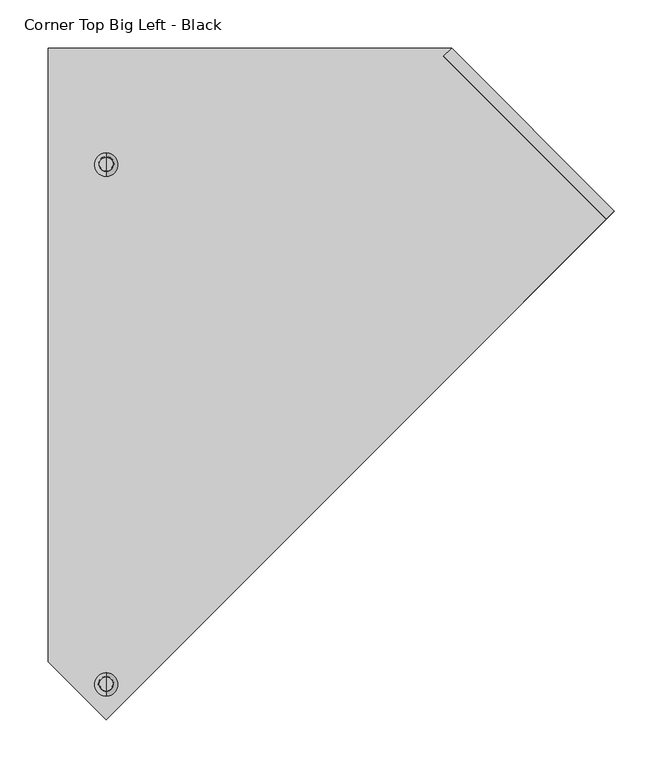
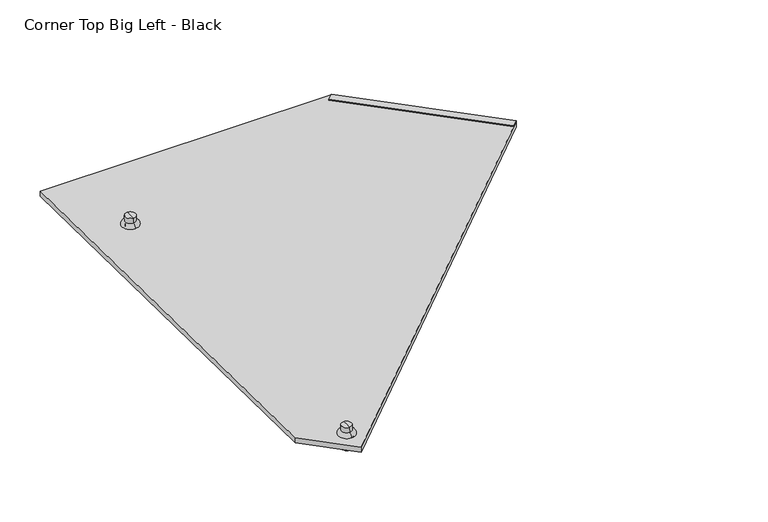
"""IFC4 building model written with IfcOpenShell, lengths in millimetres: proxy geometry, Roofing_Panels_SunStyle_Tile_Corner-Top-Big-Left : Corner Top Big Left - Black."""

import ifcopenshell
import ifcopenshell.guid

model = None  # the IFC model being written
_history = None  # IfcOwnerHistory: only IFC2X3 demands one
_inside = {}  # id of a spatial element -> (the spatial element, [elements in it])
_under = {}  # id of a project, library or spatial element -> (it, [spatial elements below it])
_declared = {}  # id of a project -> (the project, [libraries it declares])
_typed = {}  # id of a type object -> (the type object, [elements of that type])
_made_of = {}  # id of a material, layer set ... -> (it, [elements and type objects made of it])


def new_model(schema):
    """Start an empty IFC model of exactly this schema.

    Asked for "IFC4X3", IfcOpenShell would pick the latest addendum, in which some entities
    have other attributes; the version numbers below select the first issue.
    IFC2X3 requires an IfcOwnerHistory on every rooted entity: one is made here for all.
    """
    global model, _history
    if schema == "IFC4X3":
        model = ifcopenshell.file(schema_version=(4, 3, 0, 0))
    else:
        model = ifcopenshell.file(schema=schema)
    _inside.clear()
    _under.clear()
    _declared.clear()
    _typed.clear()
    _made_of.clear()
    _history = None
    if model.schema == "IFC2X3":
        org = make("IfcOrganization", Name="unknown")
        user = make(
            "IfcPersonAndOrganization",
            ThePerson=make("IfcPerson", FamilyName="unknown"),
            TheOrganization=org,
        )
        app = make(
            "IfcApplication",
            ApplicationDeveloper=org,
            Version="unknown",
            ApplicationFullName="unknown",
            ApplicationIdentifier="unknown",
        )
        _history = make(
            "IfcOwnerHistory",
            OwningUser=user,
            OwningApplication=app,
            ChangeAction="ADDED",
            CreationDate=0,
        )
    return model


def make(cls, **values):
    """One entity of the class cls with the attributes given. An attribute that is None is left unset."""
    return model.create_entity(
        cls, **{name: value for name, value in values.items() if value is not None}
    )


def rooted(cls, **values):
    """An entity with a GlobalId (a new one), such as an element, a storey or a relation."""
    return make(cls, GlobalId=ifcopenshell.guid.new(), OwnerHistory=_history, **values)


def si_unit(unit_type, name, prefix=None):
    """IfcSIUnit, for example si_unit("LENGTHUNIT", "METRE", prefix="MILLI")."""
    return make("IfcSIUnit", UnitType=unit_type, Prefix=prefix, Name=name)


def assignment(units):
    """IfcUnitAssignment: the units of a project."""
    return None if units is None else make("IfcUnitAssignment", Units=units)


def point(xyz):
    """IfcCartesianPoint."""
    return None if xyz is None else make("IfcCartesianPoint", Coordinates=xyz)


def direction(xyz):
    """IfcDirection."""
    return None if xyz is None else make("IfcDirection", DirectionRatios=xyz)


def frame(location, z_axis=None, x_axis=None):
    """IfcAxis2Placement3D, a coordinate frame: its origin and axes. An axis left out is left unset."""
    return make(
        "IfcAxis2Placement3D",
        Location=point(location),
        Axis=direction(z_axis),
        RefDirection=direction(x_axis),
    )


def frame_2d(location, x_axis=None):
    """IfcAxis2Placement2D, a coordinate frame in the plane: its origin and x axis."""
    return make(
        "IfcAxis2Placement2D", Location=point(location), RefDirection=direction(x_axis)
    )


def origin():
    """The frame at (0, 0, 0) with its axes left unset."""
    return frame((0.0, 0.0, 0.0))


def place(relative_to, where):
    """IfcLocalPlacement: puts the frame where relative to a parent placement (None: the world)."""
    return make(
        "IfcLocalPlacement", PlacementRelTo=relative_to, RelativePlacement=where
    )


def context(
    kind, dimensions, precision=None, world=None, true_north=None, identifier=None
):
    """IfcGeometricRepresentationContext, for example the 3D "Model" context."""
    return make(
        "IfcGeometricRepresentationContext",
        ContextIdentifier=identifier,
        ContextType=kind,
        CoordinateSpaceDimension=dimensions,
        Precision=precision,
        WorldCoordinateSystem=world,
        TrueNorth=true_north,
    )


def project(units=None, contexts=None):
    """IfcProject with its units and contexts."""
    return rooted(
        "IfcProject",
        Name="project",
        RepresentationContexts=contexts,
        UnitsInContext=assignment(units),
    )


def spatial(cls, under=None, at=None, **own):
    """A site, building, storey or space (cls), placed at a placement, below another one or the project."""
    s = rooted(cls, ObjectPlacement=at, **own)
    if under is not None:
        _under.setdefault(under.id(), (under, []))[1].append(s)
    return s


def polyline(points):
    """IfcPolyline through the points."""
    return make("IfcPolyline", Points=[point(p) for p in points])


def circle_curve(where, radius):
    """IfcCircle in the frame where."""
    return make("IfcCircle", Position=where, Radius=radius)


def ellipse_curve(where, semi_axis1, semi_axis2):
    """IfcEllipse in the frame where."""
    return make(
        "IfcEllipse", Position=where, SemiAxis1=semi_axis1, SemiAxis2=semi_axis2
    )


def trimmed(basis, trim1, trim2, sense, master):
    """IfcTrimmedCurve: the piece of a basis curve between two trims."""
    return make(
        "IfcTrimmedCurve",
        BasisCurve=basis,
        Trim1=trim1,
        Trim2=trim2,
        SenseAgreement=sense,
        MasterRepresentation=master,
    )


def segment(curve, same_sense, transition):
    """IfcCompositeCurveSegment."""
    return make(
        "IfcCompositeCurveSegment",
        Transition=transition,
        SameSense=same_sense,
        ParentCurve=curve,
    )


def composite_curve(segments, self_intersect=None):
    """IfcCompositeCurve: segments joined end to end."""
    return make("IfcCompositeCurve", Segments=segments, SelfIntersect=self_intersect)


def outline(outer, holes=None, kind="AREA"):
    """IfcArbitraryClosedProfileDef: a profile drawn as a closed curve; with holes, ...WithVoids."""
    if holes is None:
        return make("IfcArbitraryClosedProfileDef", ProfileType=kind, OuterCurve=outer)
    return make(
        "IfcArbitraryProfileDefWithVoids",
        ProfileType=kind,
        OuterCurve=outer,
        InnerCurves=holes,
    )


def extrude(swept, where, along, depth):
    """IfcExtrudedAreaSolid: the profile swept, set in the frame where, extruded along a direction by depth."""
    return make(
        "IfcExtrudedAreaSolid",
        SweptArea=swept,
        Position=where,
        ExtrudedDirection=direction(along),
        Depth=depth,
    )


def shape(context_of_items, identifier, shape_type, items):
    """IfcShapeRepresentation: the items that make up one representation, for example the "Body"."""
    return make(
        "IfcShapeRepresentation",
        ContextOfItems=context_of_items,
        RepresentationIdentifier=identifier,
        RepresentationType=shape_type,
        Items=items,
    )


def source(mapping_origin, context_of_items, identifier, shape_type, items):
    """IfcRepresentationMap: a shape defined once, which mapped items show again and again."""
    return make(
        "IfcRepresentationMap",
        MappingOrigin=mapping_origin,
        MappedRepresentation=shape(context_of_items, identifier, shape_type, items),
    )


def transform(
    local_origin,
    x_axis=None,
    y_axis=None,
    z_axis=None,
    scale=None,
    scale2=None,
    scale3=None,
    uniform=True,
):
    """IfcCartesianTransformationOperator3D, or its non-uniform kind. x_axis, y_axis, z_axis: its Axis1, 2, 3."""
    if uniform:
        return make(
            "IfcCartesianTransformationOperator3D",
            Axis1=direction(x_axis),
            Axis2=direction(y_axis),
            LocalOrigin=point(local_origin),
            Scale=scale,
            Axis3=direction(z_axis),
        )
    return make(
        "IfcCartesianTransformationOperator3DnonUniform",
        Axis1=direction(x_axis),
        Axis2=direction(y_axis),
        LocalOrigin=point(local_origin),
        Scale=scale,
        Axis3=direction(z_axis),
        Scale2=scale2,
        Scale3=scale3,
    )


def mapped(mapping_source, mapping_target):
    """IfcMappedItem: shows the shape of a source again, moved by a transform."""
    return make(
        "IfcMappedItem", MappingSource=mapping_source, MappingTarget=mapping_target
    )


def made_of(thing, what):
    """Note that an element or type object is made of a material, layer set ...; save() writes the relation."""
    if what is not None:
        _made_of.setdefault(what.id(), (what, []))[1].append(thing)
    return thing


def element(
    cls,
    number,
    at=None,
    inside=None,
    cuts=None,
    type_object=None,
    material=None,
    context=None,
    identifier="Body",
    shape_type=None,
    held_by="IfcProductDefinitionShape",
    body=None,
    shapes=None,
    **own,
):
    """One element of the class cls, such as IfcWall. Its Tag is "e" and its number.

    at: its placement. inside: the storey or other place that contains it. cuts: it is an
    opening in that element (IfcRelVoidsElement). A single representation is given by context,
    identifier, shape_type and body (its items); several are given by shapes. held_by: the class
    of the entity that holds the representations. save() writes the other relations.
    """
    e = rooted(cls, Tag="e%d" % number, ObjectPlacement=at, **own)
    if body is not None:
        shapes = [shape(context, identifier, shape_type, body)]
    if shapes is not None:
        e.Representation = make(held_by, Representations=shapes)
    if inside is not None:
        _inside.setdefault(inside.id(), (inside, []))[1].append(e)
    if cuts is not None:
        rooted(
            "IfcRelVoidsElement", RelatingBuildingElement=cuts, RelatedOpeningElement=e
        )
    if type_object is not None:
        _typed.setdefault(type_object.id(), (type_object, []))[1].append(e)
    return made_of(e, material)


def aggregate(whole, parts):
    """IfcRelAggregates: a whole, such as a stair, and the parts it consists of."""
    return rooted("IfcRelAggregates", RelatingObject=whole, RelatedObjects=parts)


def save(model, path):
    """Write the relations noted so far, then the file.

    IfcRelAggregates (storeys below a building ...), IfcRelContainedInSpatialStructure (elements
    in a storey), IfcRelDefinesByType, IfcRelAssociatesMaterial and IfcRelDeclares: one each for
    every whole, place, type object, material and project.
    """
    for whole, parts in _under.values():
        aggregate(whole, parts)
    for where, things in _inside.values():
        rooted(
            "IfcRelContainedInSpatialStructure",
            RelatedElements=things,
            RelatingStructure=where,
        )
    for kind, things in _typed.values():
        rooted("IfcRelDefinesByType", RelatedObjects=things, RelatingType=kind)
    for what, things in _made_of.values():
        rooted("IfcRelAssociatesMaterial", RelatedObjects=things, RelatingMaterial=what)
    for by, libraries in _declared.values():
        rooted("IfcRelDeclares", RelatingContext=by, RelatedDefinitions=libraries)
    model.write(path)


def plane_surface(at):
    """IfcPlane: the flat surface through the origin of the frame at, square to its z axis."""
    return make("IfcPlane", Position=at)


def cylinder_surface(at, radius):
    """IfcCylindricalSurface: all points at the distance radius from the z axis of the frame at."""
    return make("IfcCylindricalSurface", Position=at, Radius=radius)


def revolved_surface(curve, axis_point, axis_direction):
    """IfcSurfaceOfRevolution: the curve turned about the line through axis_point along axis_direction."""
    return make(
        "IfcSurfaceOfRevolution",
        SweptCurve=make("IfcArbitraryOpenProfileDef", ProfileType="CURVE", Curve=curve),
        AxisPosition=make("IfcAxis1Placement", Location=point(axis_point), Axis=direction(axis_direction)),
    )


def advanced_brep(points, edges, surfaces, faces):
    """IfcAdvancedBrep: a solid bounded by faces that lie on surfaces and meet in shared edges.

    An edge is (start, end): straight between two places in points (the first is 0);
    or (start, end, curve); or (start, end, curve, False) where it runs against its curve.
    A face is (place in surfaces, loops), or (place, loops, False) where it looks against
    its surface's normal. A loop lists edges by number (the first is 1), with a minus sign
    where the edge is run from its end to its start. The first loop is the outer one.
    """
    corners = [point(p) for p in points]
    vertices = [make("IfcVertexPoint", VertexGeometry=c) for c in corners]
    made = []
    for start, end, *more in edges:
        made.append(
            make(
                "IfcEdgeCurve",
                EdgeStart=vertices[start],
                EdgeEnd=vertices[end],
                EdgeGeometry=more[0] if more else make("IfcPolyline", Points=[corners[start], corners[end]]),
                SameSense=more[1] if len(more) > 1 else True,
            )
        )
    hull = []
    for where, loops, *sense in faces:
        bounds = []
        for j, loop in enumerate(loops):
            ring = [make("IfcOrientedEdge", EdgeElement=made[abs(k) - 1], Orientation=k > 0) for k in loop]
            bounds.append(
                make(
                    "IfcFaceOuterBound" if j == 0 else "IfcFaceBound",
                    Bound=make("IfcEdgeLoop", EdgeList=ring),
                    Orientation=True,
                )
            )
        hull.append(make("IfcAdvancedFace", Bounds=bounds, FaceSurface=surfaces[where], SameSense=sense[0] if sense else True))
    return make("IfcAdvancedBrep", Outer=make("IfcClosedShell", CfsFaces=hull))


def corner_top_big_left_black_ba74b52e(model_context):
    return source(origin(), model_context, "Body", "SolidModel", [
        advanced_brep(
        [(0.0, -46.9473566, 17.7421994), (0.0, -33.614276, 17.5189035), (0.0, -33.9825851, -4.4729659), (0.0, -47.3156657, -4.2496699), (0.0, -52.4465854, 17.8342978), (0.0, -28.1150472, 17.4268051), (0.0, -47.4975891, 22.7481046), (0.0, -32.8967262, 22.5035765), (0.0, -40.0631292, 30.6287287), (0.0, -32.7626977, 30.5064647), (0.0, -47.3635606, 30.7509928), (0.0, -40.6491254, -4.3613179)],
        [
            (0, 1, circle_curve(frame((0.0, -40.2808163, 17.6305515), z_axis=(0.0, -0.016745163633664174, -0.9998597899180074), x_axis=(0.0, 0.9998597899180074, -0.016745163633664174)), 6.6674751)),
            (1, 2),
            (2, 3, circle_curve(frame((0.0, -40.6491254, -4.3613179), z_axis=(0.0, 0.016745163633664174, 0.9998597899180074), x_axis=(0.0, 0.9998597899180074, -0.016745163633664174)), 6.6674751)),
            (3, 0),
            (1, 0, circle_curve(frame((0.0, -40.2808163, 17.6305515), z_axis=(0.0, -0.016745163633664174, -0.9998597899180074), x_axis=(0.0, 0.9998597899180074, -0.016745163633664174)), 6.6674751)),
            (3, 2, circle_curve(frame((0.0, -40.6491254, -4.3613179), z_axis=(0.0, 0.016745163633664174, 0.9998597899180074), x_axis=(0.0, 0.9998597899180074, -0.016745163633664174)), 6.6674751)),
            (4, 5, circle_curve(frame((0.0, -40.2808163, 17.6305515), z_axis=(0.0, -0.016745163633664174, -0.9998597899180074), x_axis=(0.0, 0.9998597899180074, -0.016745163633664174)), 12.1674751)),
            (5, 1),
            (0, 4),
            (5, 4, circle_curve(frame((0.0, -40.2808163, 17.6305515), z_axis=(0.0, -0.016745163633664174, -0.9998597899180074), x_axis=(0.0, 0.9998597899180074, -0.016745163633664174)), 12.1674751)),
            (6, 7, circle_curve(frame((0.0, -40.1971576, 22.6258405), z_axis=(0.0, -0.016745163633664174, -0.9998597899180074), x_axis=(0.0, 0.9998597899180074, -0.016745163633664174)), 7.3014552)),
            (7, 5, circle_curve(frame((0.0, -33.2009241, 17.4268051), z_axis=(-1.0, 0.0, 0.0), x_axis=(0.0, -1.0, 0.0)), 5.0858769)),
            (4, 6, circle_curve(frame((0.0, -47.3635606, 17.663994), z_axis=(-1.0, 0.0, 0.0), x_axis=(0.0, 0.9994391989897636, -0.03348563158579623)), 5.0858769)),
            (7, 6, circle_curve(frame((0.0, -40.1971576, 22.6258405), z_axis=(0.0, -0.016745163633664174, -0.9998597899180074), x_axis=(0.0, 0.9998597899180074, -0.016745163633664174)), 7.3014552)),
            (8, 9),
            (9, 10, circle_curve(frame((0.0, -40.0631292, 30.6287287), z_axis=(0.0, 0.016745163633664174, 0.9998597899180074), x_axis=(0.0, 0.9998597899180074, -0.016745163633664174)), 7.3014552)),
            (10, 8),
            (10, 9, circle_curve(frame((0.0, -40.0631292, 30.6287287), z_axis=(0.0, 0.016745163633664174, 0.9998597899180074), x_axis=(0.0, 0.9998597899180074, -0.016745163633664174)), 7.3014552)),
            (2, 11),
            (11, 3),
            (9, 7),
            (6, 10),
        ],
        [
            cylinder_surface(frame((0.0, -40.0631292, 30.6287287), z_axis=(0.0, 0.016745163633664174, 0.9998597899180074), x_axis=(0.0, 0.9998597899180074, -0.016745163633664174)), 6.6674751),
            plane_surface(frame((0.0, -40.2808163, 17.6305515), z_axis=(0.0, -0.016745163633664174, -0.9998597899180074), x_axis=(0.0, 0.9998597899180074, -0.016745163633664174))),
            revolved_surface(trimmed(ellipse_curve(frame((0.0, -33.2009241, 17.4268051), z_axis=(1.0, 0.0, 0.0), x_axis=(0.0, -1.0, 0.0)), 5.0858769, 5.0858769), [point((0.0, -28.1150472, 17.4268051))], [point((0.0, -32.8967262, 22.5035765))], True, "CARTESIAN"), (0.0, -40.0631292, 30.6287287), (0.0, 0.016745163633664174, 0.9998597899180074)),
            plane_surface(frame((0.0, -40.0631292, 30.6287287), z_axis=(0.0, 0.016745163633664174, 0.9998597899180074), x_axis=(0.0, 0.9998597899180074, -0.016745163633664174))),
            plane_surface(frame((0.0, -40.6491254, -4.3613179), z_axis=(0.0, -0.016745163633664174, -0.9998597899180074), x_axis=(0.0, 0.9998597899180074, -0.016745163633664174))),
            cylinder_surface(frame((0.0, -40.0631292, 30.6287287), z_axis=(0.0, 0.016745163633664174, 0.9998597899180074), x_axis=(0.0, 0.9998597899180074, -0.016745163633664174)), 7.3014552),
        ],
        [
            (0, [[1, 2, 3, 4]]),
            (0, [[5, -4, 6, -2]]),
            (1, [[7, 8, -1, 9]]),
            (1, [[10, -9, -5, -8]]),
            (2, [[11, 12, -7, 13]]),
            (2, [[14, -13, -10, -12]]),
            (3, [[15, 16, 17]]),
            (3, [[-17, 18, -15]]),
            (4, [[-3, 19, 20]]),
            (4, [[-6, -20, -19]]),
            (5, [[-16, 21, -11, 22]]),
            (5, [[-18, -22, -14, -21]]),
        ],
    ),
        advanced_brep(
        [(0.0, -585.4822294, 26.2215343), (0.0, -572.1491489, 25.9982384), (0.0, -572.5174579, 4.0063691), (0.0, -585.8505385, 4.229665), (0.0, -590.9814582, 26.3136327), (0.0, -566.64992, 25.90614), (0.0, -586.0324619, 31.2274395), (0.0, -571.431599, 30.9829114), (0.0, -578.598002, 39.1080636), (0.0, -571.2975705, 38.9857996), (0.0, -585.8984335, 39.2303277), (0.0, -579.1839982, 4.118017)],
        [
            (0, 1, circle_curve(frame((0.0, -578.8156891, 26.1098864), z_axis=(0.0, -0.016745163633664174, -0.9998597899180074), x_axis=(0.0, 0.9998597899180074, -0.016745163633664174)), 6.6674751)),
            (1, 2),
            (2, 3, circle_curve(frame((0.0, -579.1839982, 4.118017), z_axis=(0.0, 0.016745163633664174, 0.9998597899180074), x_axis=(0.0, 0.9998597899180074, -0.016745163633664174)), 6.6674751)),
            (3, 0),
            (1, 0, circle_curve(frame((0.0, -578.8156891, 26.1098864), z_axis=(0.0, -0.016745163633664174, -0.9998597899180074), x_axis=(0.0, 0.9998597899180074, -0.016745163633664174)), 6.6674751)),
            (3, 2, circle_curve(frame((0.0, -579.1839982, 4.118017), z_axis=(0.0, 0.016745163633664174, 0.9998597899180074), x_axis=(0.0, 0.9998597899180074, -0.016745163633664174)), 6.6674751)),
            (4, 5, circle_curve(frame((0.0, -578.8156891, 26.1098864), z_axis=(0.0, -0.016745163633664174, -0.9998597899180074), x_axis=(0.0, 0.9998597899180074, -0.016745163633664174)), 12.1674751)),
            (5, 1),
            (0, 4),
            (5, 4, circle_curve(frame((0.0, -578.8156891, 26.1098864), z_axis=(0.0, -0.016745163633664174, -0.9998597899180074), x_axis=(0.0, 0.9998597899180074, -0.016745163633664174)), 12.1674751)),
            (6, 7, circle_curve(frame((0.0, -578.7320305, 31.1051755), z_axis=(0.0, -0.016745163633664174, -0.9998597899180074), x_axis=(0.0, 0.9998597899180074, -0.016745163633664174)), 7.3014552)),
            (7, 5, circle_curve(frame((0.0, -571.7357969, 25.90614), z_axis=(-1.0, 0.0, 0.0), x_axis=(0.0, -1.0, 0.0)), 5.0858769)),
            (4, 6, circle_curve(frame((0.0, -585.8984335, 26.1433289), z_axis=(-1.0, 0.0, 0.0), x_axis=(0.0, 0.9994391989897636, -0.03348563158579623)), 5.0858769)),
            (7, 6, circle_curve(frame((0.0, -578.7320305, 31.1051755), z_axis=(0.0, -0.016745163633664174, -0.9998597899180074), x_axis=(0.0, 0.9998597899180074, -0.016745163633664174)), 7.3014552)),
            (8, 9),
            (9, 10, circle_curve(frame((0.0, -578.598002, 39.1080636), z_axis=(0.0, 0.016745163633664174, 0.9998597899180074), x_axis=(0.0, 0.9998597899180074, -0.016745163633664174)), 7.3014552)),
            (10, 8),
            (10, 9, circle_curve(frame((0.0, -578.598002, 39.1080636), z_axis=(0.0, 0.016745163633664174, 0.9998597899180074), x_axis=(0.0, 0.9998597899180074, -0.016745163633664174)), 7.3014552)),
            (2, 11),
            (11, 3),
            (9, 7),
            (6, 10),
        ],
        [
            cylinder_surface(frame((0.0, -578.598002, 39.1080636), z_axis=(0.0, 0.016745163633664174, 0.9998597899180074), x_axis=(0.0, 0.9998597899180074, -0.016745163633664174)), 6.6674751),
            plane_surface(frame((0.0, -578.8156891, 26.1098864), z_axis=(0.0, -0.016745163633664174, -0.9998597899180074), x_axis=(0.0, 0.9998597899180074, -0.016745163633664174))),
            revolved_surface(trimmed(ellipse_curve(frame((0.0, -571.7357969, 25.90614), z_axis=(1.0, 0.0, 0.0), x_axis=(0.0, -1.0, 0.0)), 5.0858769, 5.0858769), [point((0.0, -566.64992, 25.90614))], [point((0.0, -571.431599, 30.9829114))], True, "CARTESIAN"), (0.0, -578.598002, 39.1080636), (0.0, 0.016745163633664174, 0.9998597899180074)),
            plane_surface(frame((0.0, -578.598002, 39.1080636), z_axis=(0.0, 0.016745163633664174, 0.9998597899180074), x_axis=(0.0, 0.9998597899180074, -0.016745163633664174))),
            plane_surface(frame((0.0, -579.1839982, 4.118017), z_axis=(0.0, -0.016745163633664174, -0.9998597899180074), x_axis=(0.0, 0.9998597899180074, -0.016745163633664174))),
            cylinder_surface(frame((0.0, -578.598002, 39.1080636), z_axis=(0.0, 0.016745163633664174, 0.9998597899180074), x_axis=(0.0, 0.9998597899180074, -0.016745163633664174)), 7.3014552),
        ],
        [
            (0, [[1, 2, 3, 4]]),
            (0, [[5, -4, 6, -2]]),
            (1, [[7, 8, -1, 9]]),
            (1, [[10, -9, -5, -8]]),
            (2, [[11, 12, -7, 13]]),
            (2, [[14, -13, -10, -12]]),
            (3, [[15, 16, 17]]),
            (3, [[-17, 18, -15]]),
            (4, [[-3, 19, 20]]),
            (4, [[-6, -20, -19]]),
            (5, [[-16, 21, -11, 22]]),
            (5, [[-18, -22, -14, -21]]),
        ],
    ),
        extrude(outline(polyline([(1e-07, -12.0), (0.0, 0.0), (238.5905055, -1e-07), (238.5905055, -12.0), (1e-07, -12.0)])), frame((518.4698706, -96.8883761, 17.9262635), z_axis=(0.0, 0.0167451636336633, 0.9998597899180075), x_axis=(-0.7071563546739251, 0.7069580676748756, -0.011839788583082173)), (0.0, 0.0, 1.0), 1.5),
        extrude(outline(polyline([(-107.1708517, 0.0), (61.5499404, -168.6971358), (-465.4042941, -695.5774861), (-525.5083705, -635.4818369), (-525.5083705, 0.0), (-107.1708517, 0.0)]), holes=[composite_curve([segment(trimmed(circle_curve(frame_2d((-465.470113, -659.0786312)), 8.0), [point((-473.470113, -659.0786312))], [point((-457.470113, -659.0786312))], True, "CARTESIAN"), True, "CONTINUOUS"), segment(trimmed(circle_curve(frame_2d((-465.470113, -659.0786312)), 8.0), [point((-457.470113, -659.0786312))], [point((-473.470113, -659.0786312))], True, "CARTESIAN"), True, "CONTINUOUS")], self_intersect=False), composite_curve([segment(trimmed(circle_curve(frame_2d((-465.4046166, -120.2644294)), 8.0), [point((-473.4046166, -120.2644294))], [point((-457.4046166, -120.2644294))], True, "CARTESIAN"), True, "CONTINUOUS"), segment(trimmed(circle_curve(frame_2d((-465.4046166, -120.2644294)), 8.0), [point((-457.4046166, -120.2644294))], [point((-473.4046166, -120.2644294))], True, "CARTESIAN"), True, "CONTINUOUS")], self_intersect=False)]), frame((465.4046166, 80.1442044, 7.4603565), z_axis=(0.0, 0.01674516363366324, 0.9998597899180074), x_axis=(1.0, 0.0, 0.0)), (0.0, 0.0, 1.0), 7.5),
    ])


if __name__ == "__main__":
    model = new_model("IFC4")
    model_context = context("Model", 3, world=origin())
    ifc_project = project(units=[si_unit("LENGTHUNIT", "METRE", prefix="MILLI")], contexts=[model_context])
    site = spatial("IfcSite", under=ifc_project)
    building = spatial("IfcBuilding", under=site)
    placement = place(None, origin())
    corner_top_big_left_black_shape = corner_top_big_left_black_ba74b52e(model_context)
    element("IfcBuildingElementProxy", 1, Name="Roofing_Panels_SunStyle_Tile_Corner-Top-Big-Left : Corner Top Big Left - Black", ObjectType="Roofing_Panels_SunStyle_Tile_Corner-Top-Big-Left : Corner Top Big Left - Black", at=placement, inside=building, context=model_context, shape_type="MappedRepresentation", body=[
        mapped(corner_top_big_left_black_shape, transform((0.0, 0.0, 0.0), x_axis=(1.0, 0.0, 0.0), y_axis=(0.0, 1.0, 0.0), z_axis=(0.0, 0.0, 1.0))),
    ])
    save(model, "model.ifc")
